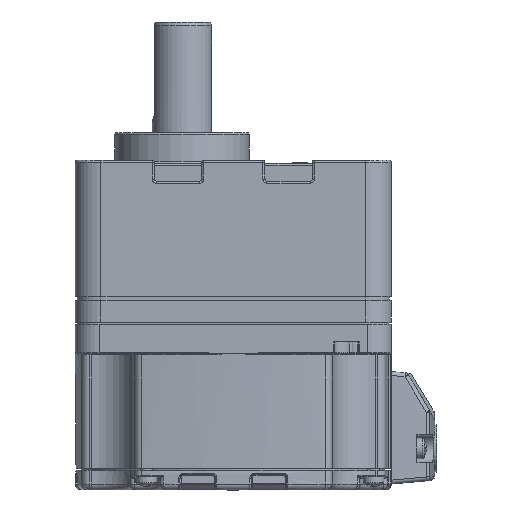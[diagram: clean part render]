
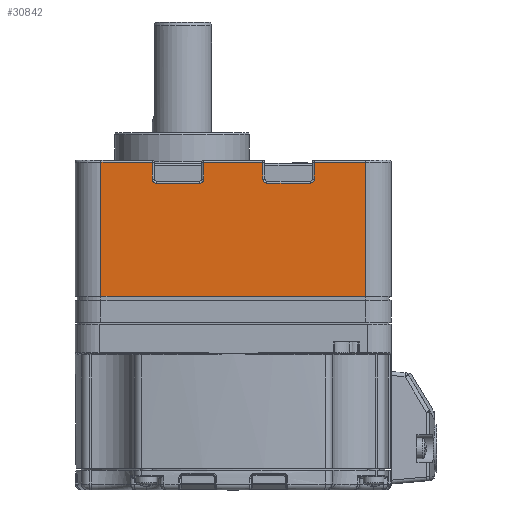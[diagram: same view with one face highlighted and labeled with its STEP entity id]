
A CAD part, left-side view. The second image highlights one B-rep face of the part: STEP entity #30842.
In plain terms, the highlighted planar face has unit normal (-1, 0, 0).
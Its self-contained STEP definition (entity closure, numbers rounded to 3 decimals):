
#27036=CARTESIAN_POINT('',(-80.,6.5,101.732));
#27037=VERTEX_POINT('',#27036);
#27047=CARTESIAN_POINT('',(-80.0,6.5,67.732));
#27048=VERTEX_POINT('',#27047);
#27049=CARTESIAN_POINT('',(-80.,6.5,101.732));
#27050=DIRECTION('',(0.0,0.0,-1.0));
#27051=VECTOR('',#27050,34.0);
#27052=LINE('',#27049,#27051);
#27053=EDGE_CURVE('',#27037,#27048,#27052,.T.);
#27080=CARTESIAN_POINT('',(-80.,73.5,67.732));
#27081=VERTEX_POINT('',#27080);
#27120=CARTESIAN_POINT('',(-80.,73.5,67.732));
#27121=DIRECTION('',(0.0,-1.0,0.0));
#27122=VECTOR('',#27121,67.);
#27123=LINE('',#27120,#27122);
#27124=EDGE_CURVE('',#27081,#27048,#27123,.T.);
#27146=CARTESIAN_POINT('',(-80.,73.5,101.732));
#27147=VERTEX_POINT('',#27146);
#27162=CARTESIAN_POINT('',(-80.,73.5,67.732));
#27163=DIRECTION('',(0.0,0.0,1.0));
#27164=VECTOR('',#27163,34.0);
#27165=LINE('',#27162,#27164);
#27166=EDGE_CURVE('',#27081,#27147,#27165,.T.);
#28510=CARTESIAN_POINT('',(-80.,60.5,101.732));
#28511=VERTEX_POINT('',#28510);
#28521=CARTESIAN_POINT('',(-80.,60.5,97.432));
#28522=VERTEX_POINT('',#28521);
#28523=CARTESIAN_POINT('',(-80.,60.5,101.732));
#28524=DIRECTION('',(0.0,0.0,-1.0));
#28525=VECTOR('',#28524,4.3);
#28526=LINE('',#28523,#28525);
#28527=EDGE_CURVE('',#28511,#28522,#28526,.T.);
#28551=CARTESIAN_POINT('',(-80.,59.5,96.432));
#28552=VERTEX_POINT('',#28551);
#28553=CARTESIAN_POINT('',(-80.,59.5,97.432));
#28554=DIRECTION('',(-1.0,0.,0.));
#28555=DIRECTION('',(0.,0.707,-0.707));
#28556=AXIS2_PLACEMENT_3D('',#28553,#28554,#28555);
#28557=CIRCLE('',#28556,1.0);
#28558=EDGE_CURVE('',#28522,#28552,#28557,.T.);
#28577=CARTESIAN_POINT('',(-80.,48.5,96.432));
#28578=VERTEX_POINT('',#28577);
#28579=CARTESIAN_POINT('',(-80.,59.5,96.432));
#28580=DIRECTION('',(0.0,-1.0,0.0));
#28581=VECTOR('',#28580,11.);
#28582=LINE('',#28579,#28581);
#28583=EDGE_CURVE('',#28552,#28578,#28582,.T.);
#28602=CARTESIAN_POINT('',(-80.,47.5,97.432));
#28603=VERTEX_POINT('',#28602);
#28604=CARTESIAN_POINT('',(-80.,48.5,97.432));
#28605=DIRECTION('',(-1.,0.,0.));
#28606=DIRECTION('',(0.,-0.707,-0.707));
#28607=AXIS2_PLACEMENT_3D('',#28604,#28605,#28606);
#28608=CIRCLE('',#28607,1.);
#28609=EDGE_CURVE('',#28578,#28603,#28608,.T.);
#28627=CARTESIAN_POINT('',(-80.,47.5,101.732));
#28628=VERTEX_POINT('',#28627);
#28638=CARTESIAN_POINT('',(-80.,47.5,97.432));
#28639=DIRECTION('',(0.0,0.0,1.0));
#28640=VECTOR('',#28639,4.3);
#28641=LINE('',#28638,#28640);
#28642=EDGE_CURVE('',#28603,#28628,#28641,.T.);
#29881=CARTESIAN_POINT('',(-80.,32.5,101.732));
#29882=VERTEX_POINT('',#29881);
#29892=CARTESIAN_POINT('',(-80.,32.5,97.432));
#29893=VERTEX_POINT('',#29892);
#29894=CARTESIAN_POINT('',(-80.,32.5,101.732));
#29895=DIRECTION('',(0.0,0.0,-1.0));
#29896=VECTOR('',#29895,4.3);
#29897=LINE('',#29894,#29896);
#29898=EDGE_CURVE('',#29882,#29893,#29897,.T.);
#29922=CARTESIAN_POINT('',(-80.,31.5,96.432));
#29923=VERTEX_POINT('',#29922);
#29924=CARTESIAN_POINT('',(-80.,31.5,97.432));
#29925=DIRECTION('',(-1.,0.,0.));
#29926=DIRECTION('',(0.,0.707,-0.707));
#29927=AXIS2_PLACEMENT_3D('',#29924,#29925,#29926);
#29928=CIRCLE('',#29927,1.);
#29929=EDGE_CURVE('',#29893,#29923,#29928,.T.);
#29948=CARTESIAN_POINT('',(-80.,20.5,96.432));
#29949=VERTEX_POINT('',#29948);
#29950=CARTESIAN_POINT('',(-80.,31.5,96.432));
#29951=DIRECTION('',(0.0,-1.0,0.0));
#29952=VECTOR('',#29951,11.);
#29953=LINE('',#29950,#29952);
#29954=EDGE_CURVE('',#29923,#29949,#29953,.T.);
#29973=CARTESIAN_POINT('',(-80.,19.5,97.432));
#29974=VERTEX_POINT('',#29973);
#29975=CARTESIAN_POINT('',(-80.,20.5,97.432));
#29976=DIRECTION('',(-1.,0.,0.));
#29977=DIRECTION('',(0.,-0.707,-0.707));
#29978=AXIS2_PLACEMENT_3D('',#29975,#29976,#29977);
#29979=CIRCLE('',#29978,1.0);
#29980=EDGE_CURVE('',#29949,#29974,#29979,.T.);
#30372=CARTESIAN_POINT('',(-80.,73.5,101.732));
#30373=DIRECTION('',(0.0,-1.0,0.0));
#30374=VECTOR('',#30373,13.);
#30375=LINE('',#30372,#30374);
#30376=EDGE_CURVE('',#27147,#28511,#30375,.T.);
#30682=CARTESIAN_POINT('',(-80.,47.5,101.732));
#30683=DIRECTION('',(0.0,-1.0,0.0));
#30684=VECTOR('',#30683,15.0);
#30685=LINE('',#30682,#30684);
#30686=EDGE_CURVE('',#28628,#29882,#30685,.T.);
#30794=CARTESIAN_POINT('',(-80.,19.5,101.732));
#30795=VERTEX_POINT('',#30794);
#30805=CARTESIAN_POINT('',(-80.,19.5,97.432));
#30806=DIRECTION('',(0.0,0.0,1.0));
#30807=VECTOR('',#30806,4.3);
#30808=LINE('',#30805,#30807);
#30809=EDGE_CURVE('',#29974,#30795,#30808,.T.);
#30814=CARTESIAN_POINT('',(-80.,80.,102.232));
#30815=DIRECTION('',(-1.0,0.0,0.0));
#30816=DIRECTION('',(0.0,0.0,-1.0));
#30817=AXIS2_PLACEMENT_3D('',#30814,#30815,#30816);
#30818=PLANE('',#30817);
#30819=CARTESIAN_POINT('',(-80.,19.5,101.732));
#30820=DIRECTION('',(0.0,-1.0,0.0));
#30821=VECTOR('',#30820,13.0);
#30822=LINE('',#30819,#30821);
#30823=EDGE_CURVE('',#30795,#27037,#30822,.T.);
#30824=ORIENTED_EDGE('',*,*,#30823,.F.);
#30825=ORIENTED_EDGE('',*,*,#30809,.F.);
#30826=ORIENTED_EDGE('',*,*,#29980,.F.);
#30827=ORIENTED_EDGE('',*,*,#29954,.F.);
#30828=ORIENTED_EDGE('',*,*,#29929,.F.);
#30829=ORIENTED_EDGE('',*,*,#29898,.F.);
#30830=ORIENTED_EDGE('',*,*,#30686,.F.);
#30831=ORIENTED_EDGE('',*,*,#28642,.F.);
#30832=ORIENTED_EDGE('',*,*,#28609,.F.);
#30833=ORIENTED_EDGE('',*,*,#28583,.F.);
#30834=ORIENTED_EDGE('',*,*,#28558,.F.);
#30835=ORIENTED_EDGE('',*,*,#28527,.F.);
#30836=ORIENTED_EDGE('',*,*,#30376,.F.);
#30837=ORIENTED_EDGE('',*,*,#27166,.F.);
#30838=ORIENTED_EDGE('',*,*,#27124,.T.);
#30839=ORIENTED_EDGE('',*,*,#27053,.F.);
#30840=EDGE_LOOP('',(#30824,#30825,#30826,#30827,#30828,#30829,#30830,#30831,#30832,#30833,#30834,#30835,#30836,#30837,#30838,#30839));
#30841=FACE_OUTER_BOUND('',#30840,.T.);
#30842=ADVANCED_FACE('',(#30841),#30818,.T.);
